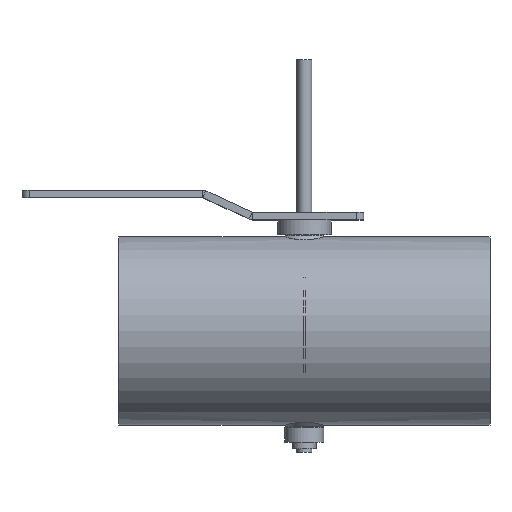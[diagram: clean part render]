
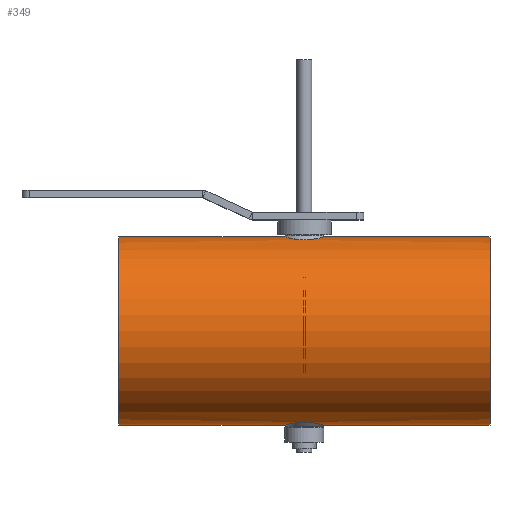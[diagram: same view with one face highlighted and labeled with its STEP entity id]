
A CAD part, top view. The second image highlights one B-rep face of the part: STEP entity #349.
In plain terms, the highlighted cylindrical face has radius 63.3 mm (diameter 126.6 mm), a full revolution.
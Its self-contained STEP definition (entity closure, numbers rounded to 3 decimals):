
#107=B_SPLINE_CURVE_WITH_KNOTS('',3,(#1935,#1936,#1937,#1938,#1939,#1940,
#1941,#1942,#1943,#1944,#1945,#1946,#1947,#1948,#1949,#1950,#1951,#1952,
#1953,#1954,#1955,#1956),.UNSPECIFIED.,.T.,.F.,(2,2,2,2,2,2,2,2,2,2,2,2,
2),(-0.063,0.,0.125,0.25,0.375,0.438,0.5,0.625,0.75,0.875,
0.938,1.,1.125),.UNSPECIFIED.);
#108=B_SPLINE_CURVE_WITH_KNOTS('',3,(#1958,#1959,#1960,#1961,#1962,#1963,
#1964,#1965,#1966,#1967,#1968,#1969,#1970,#1971,#1972,#1973,#1974,#1975,
#1976,#1977,#1978,#1979,#1980,#1981,#1982,#1983),.UNSPECIFIED.,.T.,.F.,(2,
2,2,2,2,2,2,2,2,2,2,2,2,2,2),(-0.063,0.,0.063,0.125,0.25,0.375,
0.5,0.562,0.625,0.687,
0.75,0.875,0.938,1.,1.063),.UNSPECIFIED.);
#283=CYLINDRICAL_SURFACE('',#1322,63.3);
#349=ADVANCED_FACE('',(#479,#480,#481,#482),#283,.T.);
#479=FACE_BOUND('',#623,.T.);
#480=FACE_BOUND('',#624,.T.);
#481=FACE_BOUND('',#625,.T.);
#482=FACE_BOUND('',#626,.T.);
#623=EDGE_LOOP('',(#871));
#624=EDGE_LOOP('',(#872));
#625=EDGE_LOOP('',(#873));
#626=EDGE_LOOP('',(#874));
#871=ORIENTED_EDGE('',*,*,#1115,.T.);
#872=ORIENTED_EDGE('',*,*,#1116,.T.);
#873=ORIENTED_EDGE('',*,*,#1111,.T.);
#874=ORIENTED_EDGE('',*,*,#1113,.T.);
#987=VERTEX_POINT('',#1926);
#989=VERTEX_POINT('',#1931);
#991=VERTEX_POINT('',#1957);
#992=VERTEX_POINT('',#1984);
#1111=EDGE_CURVE('',#987,#987,#1187,.T.);
#1113=EDGE_CURVE('',#989,#989,#1189,.T.);
#1115=EDGE_CURVE('',#991,#991,#107,.T.);
#1116=EDGE_CURVE('',#992,#992,#108,.T.);
#1187=CIRCLE('',#1316,63.3);
#1189=CIRCLE('',#1319,63.3);
#1316=AXIS2_PLACEMENT_3D('',#1925,#1624,#1625);
#1319=AXIS2_PLACEMENT_3D('',#1930,#1630,#1631);
#1322=AXIS2_PLACEMENT_3D('',#1985,#1636,#1637);
#1624=DIRECTION('',(-1.,0.,0.));
#1625=DIRECTION('',(0.,0.,1.));
#1630=DIRECTION('',(1.,0.,0.));
#1631=DIRECTION('',(0.,0.,-1.));
#1636=DIRECTION('',(1.,0.,0.));
#1637=DIRECTION('',(0.,0.,-1.));
#1925=CARTESIAN_POINT('',(125.,-20.8,125.));
#1926=CARTESIAN_POINT('',(125.,-20.8,188.3));
#1930=CARTESIAN_POINT('',(-125.,-20.8,125.));
#1931=CARTESIAN_POINT('',(-125.,-20.8,61.7));
#1935=CARTESIAN_POINT('',(-1.423,-82.012,108.867));
#1936=CARTESIAN_POINT('',(-7.199,-82.427,110.501));
#1937=CARTESIAN_POINT('',(-10.326,-83.122,113.378));
#1938=CARTESIAN_POINT('',(-13.997,-84.024,120.327));
#1939=CARTESIAN_POINT('',(-14.59,-84.217,124.512));
#1940=CARTESIAN_POINT('',(-13.084,-83.803,132.248));
#1941=CARTESIAN_POINT('',(-10.977,-83.202,135.898));
#1942=CARTESIAN_POINT('',(-6.335,-82.435,139.474));
#1943=CARTESIAN_POINT('',(-4.513,-82.208,140.366));
#1944=CARTESIAN_POINT('',(-0.609,-81.993,141.202));
#1945=CARTESIAN_POINT('',(1.444,-82.014,141.127));
#1946=CARTESIAN_POINT('',(7.139,-82.423,139.518));
#1947=CARTESIAN_POINT('',(10.293,-83.115,136.669));
#1948=CARTESIAN_POINT('',(14.002,-84.025,129.678));
#1949=CARTESIAN_POINT('',(14.599,-84.219,125.558));
#1950=CARTESIAN_POINT('',(13.082,-83.802,117.719));
#1951=CARTESIAN_POINT('',(11.036,-83.212,114.149));
#1952=CARTESIAN_POINT('',(6.313,-82.431,110.508));
#1953=CARTESIAN_POINT('',(4.491,-82.207,109.629));
#1954=CARTESIAN_POINT('',(0.628,-81.994,108.802));
#1955=CARTESIAN_POINT('',(-1.423,-82.012,108.867));
#1956=CARTESIAN_POINT('',(-7.199,-82.427,110.501));
#1957=CARTESIAN_POINT('',(-3.348,-82.151,109.411));
#1958=CARTESIAN_POINT('',(-5.274,40.689,109.956));
#1959=CARTESIAN_POINT('',(-1.423,40.412,108.867));
#1960=CARTESIAN_POINT('',(0.619,40.394,108.801));
#1961=CARTESIAN_POINT('',(4.488,40.606,109.627));
#1962=CARTESIAN_POINT('',(6.322,40.833,110.515));
#1963=CARTESIAN_POINT('',(11.011,41.608,114.129));
#1964=CARTESIAN_POINT('',(13.094,42.206,117.776));
#1965=CARTESIAN_POINT('',(14.59,42.616,125.515));
#1966=CARTESIAN_POINT('',(13.988,42.422,129.697));
#1967=CARTESIAN_POINT('',(10.322,41.522,136.623));
#1968=CARTESIAN_POINT('',(7.209,40.831,139.486));
#1969=CARTESIAN_POINT('',(1.465,40.414,141.127));
#1970=CARTESIAN_POINT('',(-0.582,40.393,141.203));
#1971=CARTESIAN_POINT('',(-4.487,40.606,140.376));
#1972=CARTESIAN_POINT('',(-6.307,40.831,139.492));
#1973=CARTESIAN_POINT('',(-9.427,41.346,137.096));
#1974=CARTESIAN_POINT('',(-10.739,41.633,135.582));
#1975=CARTESIAN_POINT('',(-12.76,42.115,132.183));
#1976=CARTESIAN_POINT('',(-13.461,42.306,130.322));
#1977=CARTESIAN_POINT('',(-14.599,42.619,124.445));
#1978=CARTESIAN_POINT('',(-14.013,42.428,120.348));
#1979=CARTESIAN_POINT('',(-11.222,41.743,115.079));
#1980=CARTESIAN_POINT('',(-10.019,41.467,113.533));
#1981=CARTESIAN_POINT('',(-7.018,40.933,110.941));
#1982=CARTESIAN_POINT('',(-5.274,40.689,109.956));
#1983=CARTESIAN_POINT('',(-1.423,40.412,108.867));
#1984=CARTESIAN_POINT('',(-3.348,40.551,109.411));
#1985=CARTESIAN_POINT('',(-125.,-20.8,125.));
